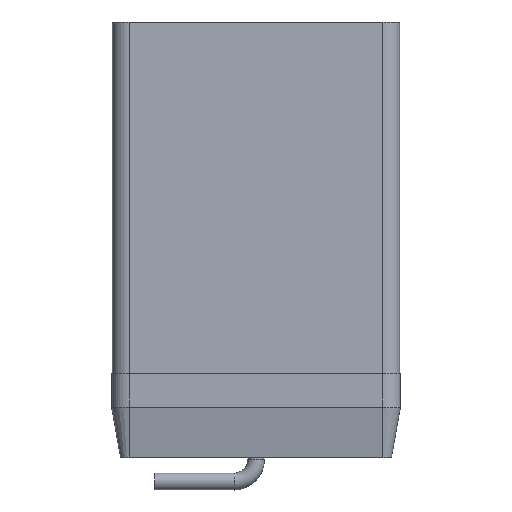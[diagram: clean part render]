
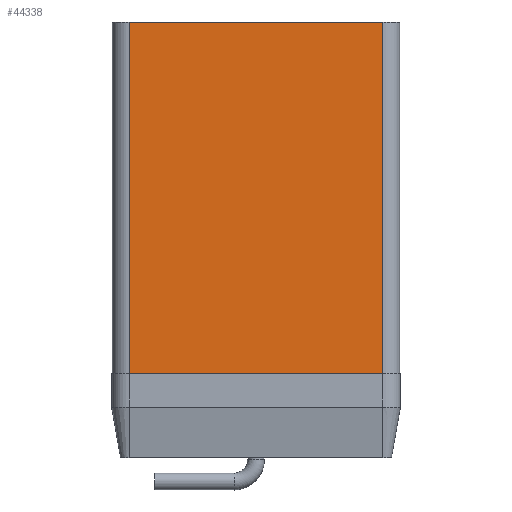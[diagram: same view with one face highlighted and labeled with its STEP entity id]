
A CAD part, top view. The second image highlights one B-rep face of the part: STEP entity #44338.
In plain terms, the highlighted planar face has unit normal (0, 0, 1).
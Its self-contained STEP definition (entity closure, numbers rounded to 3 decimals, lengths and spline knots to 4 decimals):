
#2923=LINE('',#71931,#7674);
#7641=LINE('',#84708,#12392);
#7659=LINE('',#84803,#12410);
#7660=LINE('',#84805,#12411);
#7674=VECTOR('',#60411,100.);
#12392=VECTOR('',#71695,100.);
#12410=VECTOR('',#71845,100.);
#12411=VECTOR('',#71848,100.);
#24705=ORIENTED_EDGE('',*,*,#24776,.F.);
#24706=ORIENTED_EDGE('',*,*,#30923,.F.);
#24707=ORIENTED_EDGE('',*,*,#30897,.T.);
#24708=ORIENTED_EDGE('',*,*,#30922,.T.);
#24776=EDGE_CURVE('',#30950,#30952,#2923,.T.);
#30897=EDGE_CURVE('',#35036,#35035,#7641,.T.);
#30922=EDGE_CURVE('',#35035,#30952,#7659,.T.);
#30923=EDGE_CURVE('',#35036,#30950,#7660,.T.);
#30950=VERTEX_POINT('',#71929);
#30952=VERTEX_POINT('',#71932);
#35035=VERTEX_POINT('',#84707);
#35036=VERTEX_POINT('',#84709);
#38490=EDGE_LOOP('',(#24705,#24706,#24707,#24708));
#40693=FACE_BOUND('',#38490,.T.);
#42216=PLANE('',#60372);
#44338=ADVANCED_FACE('',(#40693),#42216,.T.);
#60372=AXIS2_PLACEMENT_3D('',#84804,#71846,#71847);
#60411=DIRECTION('',(1.,0.,0.));
#71695=DIRECTION('',(1.,0.,0.));
#71845=DIRECTION('',(0.,1.,0.));
#71846=DIRECTION('',(0.,0.,1.));
#71847=DIRECTION('',(1.,0.,0.));
#71848=DIRECTION('',(0.,1.,0.));
#71929=CARTESIAN_POINT('',(-0.7024,2.3656,-0.0828));
#71931=CARTESIAN_POINT('',(-0.7024,2.3656,-0.0828));
#71932=CARTESIAN_POINT('',(0.7976,2.3656,-0.0828));
#84707=CARTESIAN_POINT('',(0.7976,0.2848,-0.0828));
#84708=CARTESIAN_POINT('',(-0.7024,0.2848,-0.0828));
#84709=CARTESIAN_POINT('',(-0.7024,0.2848,-0.0828));
#84803=CARTESIAN_POINT('',(0.7976,0.2848,-0.0828));
#84804=CARTESIAN_POINT('',(-0.7024,0.2848,-0.0828));
#84805=CARTESIAN_POINT('',(-0.7024,0.2848,-0.0828));
